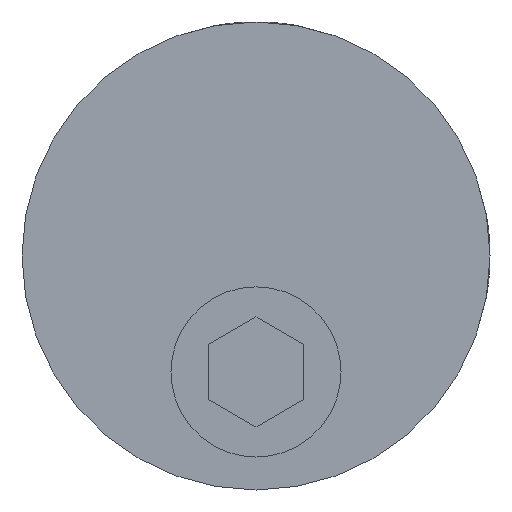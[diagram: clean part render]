
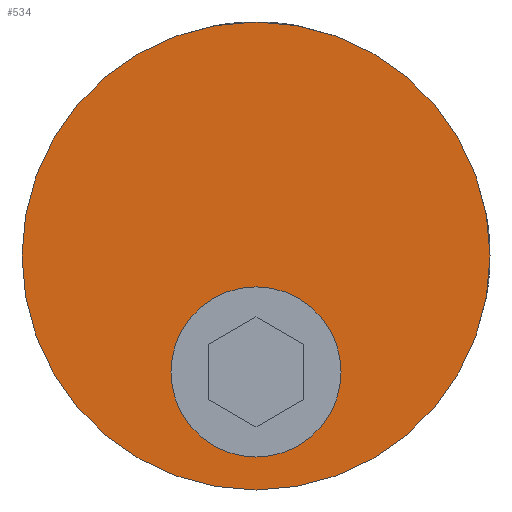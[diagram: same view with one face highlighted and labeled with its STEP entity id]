
A CAD part, front view. The second image highlights one B-rep face of the part: STEP entity #534.
In plain terms, the highlighted planar face has unit normal (0, -1, 0).
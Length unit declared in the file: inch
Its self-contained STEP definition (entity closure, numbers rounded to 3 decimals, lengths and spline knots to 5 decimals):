
#4 = AXIS2_PLACEMENT_3D ( 'NONE', #147, #145, #146 ) ;
#23 = AXIS2_PLACEMENT_3D ( 'NONE', #441, #461, #442 ) ;
#145 = DIRECTION ( 'NONE',  ( 0., -1., 0. ) ) ;
#146 = DIRECTION ( 'NONE',  ( 1., 0., 0. ) ) ;
#147 = CARTESIAN_POINT ( 'NONE',  ( 0., 0., -0.34066 ) ) ;
#199 = CARTESIAN_POINT ( 'NONE',  ( -0.25, 0., -0.34066 ) ) ;
#219 = CARTESIAN_POINT ( 'NONE',  ( 0.25, 0., -0.34066 ) ) ;
#244 = CARTESIAN_POINT ( 'NONE',  ( -0.6875, 0., 0. ) ) ;
#285 = DIRECTION ( 'NONE',  ( 0., 1., 0. ) ) ;
#286 = DIRECTION ( 'NONE',  ( -1., 0., 0. ) ) ;
#292 = PLANE ( 'NONE',  #902 ) ;
#296 = CARTESIAN_POINT ( 'NONE',  ( 0., 0., 0. ) ) ;
#322 = CARTESIAN_POINT ( 'NONE',  ( 0., 0., 0. ) ) ;
#324 = DIRECTION ( 'NONE',  ( 0., 1., 0. ) ) ;
#331 = DIRECTION ( 'NONE',  ( -1., 0., 0. ) ) ;
#441 = CARTESIAN_POINT ( 'NONE',  ( 0., 0., -0.34066 ) ) ;
#442 = DIRECTION ( 'NONE',  ( 1., 0., 0. ) ) ;
#461 = DIRECTION ( 'NONE',  ( 0., -1., 0. ) ) ;
#490 = CARTESIAN_POINT ( 'NONE',  ( 0.6875, 0., 0. ) ) ;
#534 = ADVANCED_FACE ( 'NONE', ( #1280, #1279 ), #292, .F. ) ;
#546 = EDGE_CURVE ( 'NONE', #693, #869, #1324, .T. ) ;
#590 = EDGE_CURVE ( 'NONE', #855, #850, #1380, .T. ) ;
#637 = DIRECTION ( 'NONE',  ( -1., 0., 0. ) ) ;
#644 = CARTESIAN_POINT ( 'NONE',  ( 0., 0., 0. ) ) ;
#645 = DIRECTION ( 'NONE',  ( 0., 1., 0. ) ) ;
#693 = VERTEX_POINT ( 'NONE', #490 ) ;
#850 = VERTEX_POINT ( 'NONE', #199 ) ;
#855 = VERTEX_POINT ( 'NONE', #219 ) ;
#869 = VERTEX_POINT ( 'NONE', #244 ) ;
#902 = AXIS2_PLACEMENT_3D ( 'NONE', #296, #285, #286 ) ;
#910 = AXIS2_PLACEMENT_3D ( 'NONE', #322, #324, #331 ) ;
#929 = AXIS2_PLACEMENT_3D ( 'NONE', #644, #645, #637 ) ;
#1135 = EDGE_LOOP ( 'NONE', ( #1177, #1193 ) ) ;
#1159 = EDGE_LOOP ( 'NONE', ( #1231, #1199 ) ) ;
#1177 = ORIENTED_EDGE ( 'NONE', *, *, #1523, .F. ) ;
#1193 = ORIENTED_EDGE ( 'NONE', *, *, #546, .F. ) ;
#1199 = ORIENTED_EDGE ( 'NONE', *, *, #1475, .F. ) ;
#1231 = ORIENTED_EDGE ( 'NONE', *, *, #590, .F. ) ;
#1279 = FACE_OUTER_BOUND ( 'NONE', #1135, .T. ) ;
#1280 = FACE_BOUND ( 'NONE', #1159, .T. ) ;
#1324 = CIRCLE ( 'NONE', #910, 0.6875 ) ;
#1379 = CIRCLE ( 'NONE', #4, 0.25 ) ;
#1380 = CIRCLE ( 'NONE', #23, 0.25 ) ;
#1456 = CIRCLE ( 'NONE', #929, 0.6875 ) ;
#1475 = EDGE_CURVE ( 'NONE', #850, #855, #1379, .T. ) ;
#1523 = EDGE_CURVE ( 'NONE', #869, #693, #1456, .T. ) ;
